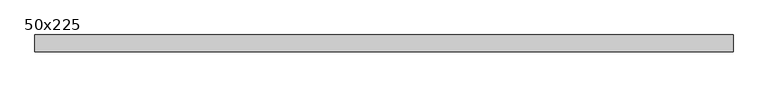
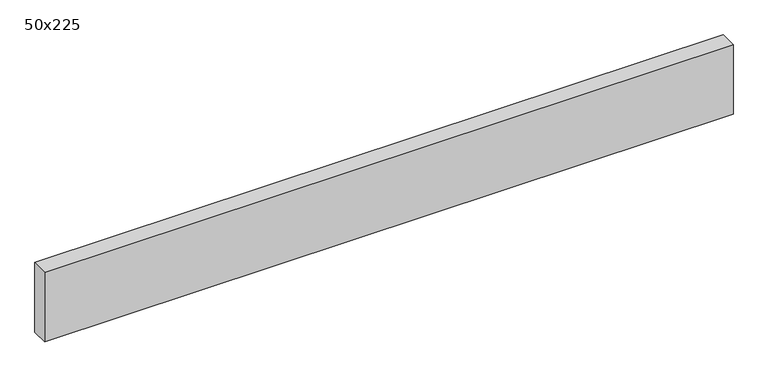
"""IFC4 building model written with IfcOpenShell, lengths in millimetres: beam geometry, Graded Timber : 50x225."""

from ifc_helpers import new_model, si_unit, frame, origin, place, context, project, spatial, polyline, outline, extrude, source, transform, mapped, element, save


def beam_50x225_6790f44b(model_context):
    return source(origin(), model_context, "Body", "SweptSolid", [
        extrude(outline(polyline([(1024.5, 25.0), (1024.5, -25.0), (-1024.5, -25.0), (-1024.5, 25.0), (1024.5, 25.0)])), frame((0.0, 0.0, -110.0), z_axis=(0.0, 0.0, 1.0), x_axis=(1.0, 0.0, 0.0)), (0.0, 0.0, 1.0), 220.0),
    ])


if __name__ == "__main__":
    model = new_model("IFC4")
    model_context = context("Model", 3, world=origin())
    ifc_project = project(units=[si_unit("LENGTHUNIT", "METRE", prefix="MILLI")], contexts=[model_context])
    site = spatial("IfcSite", under=ifc_project)
    building = spatial("IfcBuilding", under=site)
    placement = place(None, origin())
    beam_50x225_shape = beam_50x225_6790f44b(model_context)
    element("IfcBeam", 1, ObjectType="Graded Timber : 50x225", at=placement, inside=building, context=model_context, shape_type="MappedRepresentation", body=[
        mapped(beam_50x225_shape, transform((0.0, 0.0, 0.0), x_axis=(1.0, 0.0, 0.0), y_axis=(0.0, 1.0, 0.0), z_axis=(0.0, 0.0, 1.0))),
    ])
    save(model, "model.ifc")
